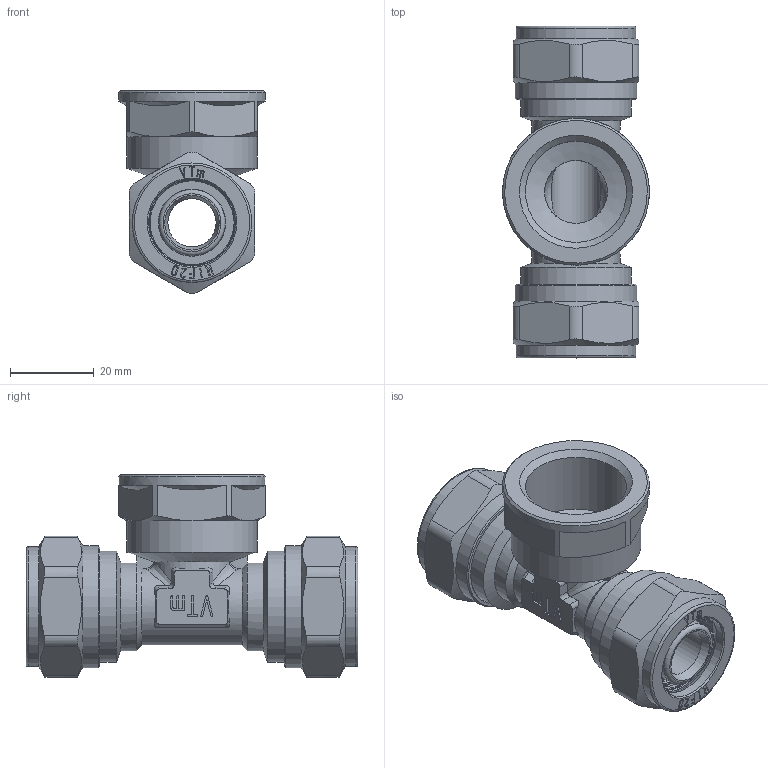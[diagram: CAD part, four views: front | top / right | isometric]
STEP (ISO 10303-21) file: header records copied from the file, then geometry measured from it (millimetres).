
FILE_DESCRIPTION(('STEP AP203'), '1');
FILE_NAME('VTm.332.N.200520', '', ('UNSPECIFIED'), ('UNSPECIFIED'), 'C3D Converter', 'C3D Toolkit', '');
FILE_SCHEMA(('CONFIG_CONTROL_DESIGN'));
Length unit declared in the file: millimetre
Products named in the file (1): ВР.302635.072.000 СБ
Bounding box: 35 x 79.06 x 48.35 mm (x, y, z)
Volume: 34122 mm3; surface area: 23387.7 mm2
Topology: 1 solids, 1 shells, 767 faces, 2105 edges, 1386 vertices
Faces by surface type: extrusion 312, plane 269, cylinder 82, torus 54, cone 40, bspline 8, sphere 2
Full cylindrical faces by diameter (mm): 11.5 x1, 15 x1, 15.8 x8, 15.9 x2, 20.1 x2, 20.2 x2, 20.7 x2, 21 x2, 24.118 x3, 26.441 x2, 28.5 x2, 29 x2, 31 x1, 35 x1
Entity records: 28697 total; most frequent: CARTESIAN_POINT 11112, ORIENTED_EDGE 4052, DIRECTION 2576, EDGE_CURVE 2026, VERTEX_POINT 1386, VECTOR 1222, B_SPLINE_CURVE_WITH_KNOTS 1137, LINE 910
